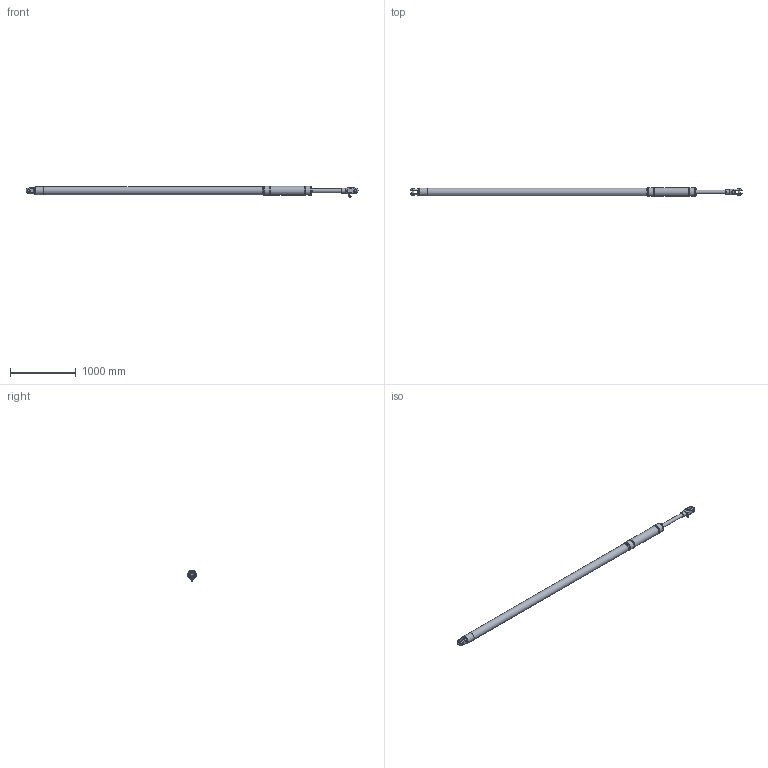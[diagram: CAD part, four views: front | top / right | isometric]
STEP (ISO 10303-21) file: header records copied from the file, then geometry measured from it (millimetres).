
FILE_DESCRIPTION(/* description */ (''),/* implementation_level */ '2;1');
FILE_NAME(/* name */ 'Q:\AA BRAND HYDRAULICS\HYDRAULICS FAMILY DIRECTORY\HYDRAULICS\CYLINDERS\VANGS\ALUMINIUM SINGLE ACTING - STAINLESS ON REQUEST (-0010 To -0150)\VSA-0091-S450-NP-71-L4500\VSA-0091-S450-NP-71-L4500 (Open).stp',/* time_stamp */ '2018-04-03T11:10:59+01:00',/* author */ ('Lorena'),/* organization */ (''),/* preprocessor_version */ 'ST-DEVELOPER v17',/* originating_system */ 'Autodesk Inventor 2018',/* authorisation */ '');
FILE_SCHEMA (('AUTOMOTIVE_DESIGN { 1 0 10303 214 3 1 1 }'));
Length unit declared in the file: millimetre
Products named in the file (1): VSA-0091-S450-NP-71-L4500 (Open)
Bounding box: 5034.33 x 136.4 x 172.64 mm (x, y, z)
Volume: 53161688.7 mm3; surface area: 1882031.3 mm2
Topology: 2 solids, 5 shells, 1696 faces, 4537 edges, 2999 vertices
Faces by surface type: plane 968, bspline 571, cylinder 88, cone 61, torus 4, sphere 4
Full cylindrical faces by diameter (mm): 5 x2, 6 x2, 8.1 x1, 9.9 x1, 10 x4, 11 x4, 14.662 x1, 15 x2, 15.662 x1, 16.662 x2, 18 x2, 19 x1, 19.11 x1, 20 x3, 21.4 x3, 27 x1, 28 x1, 31.75 x2, 39.688 x2, 55 x1, 57 x1, 75 x1, 121 x2, 131.8 x1, 133.4 x1, 136.4 x4
Entity records: 60447 total; most frequent: CARTESIAN_POINT 20156, ORIENTED_EDGE 9058, DIRECTION 5902, EDGE_CURVE 4529, VERTEX_POINT 3000, LINE 2894, VECTOR 2894, EDGE_LOOP 1867
